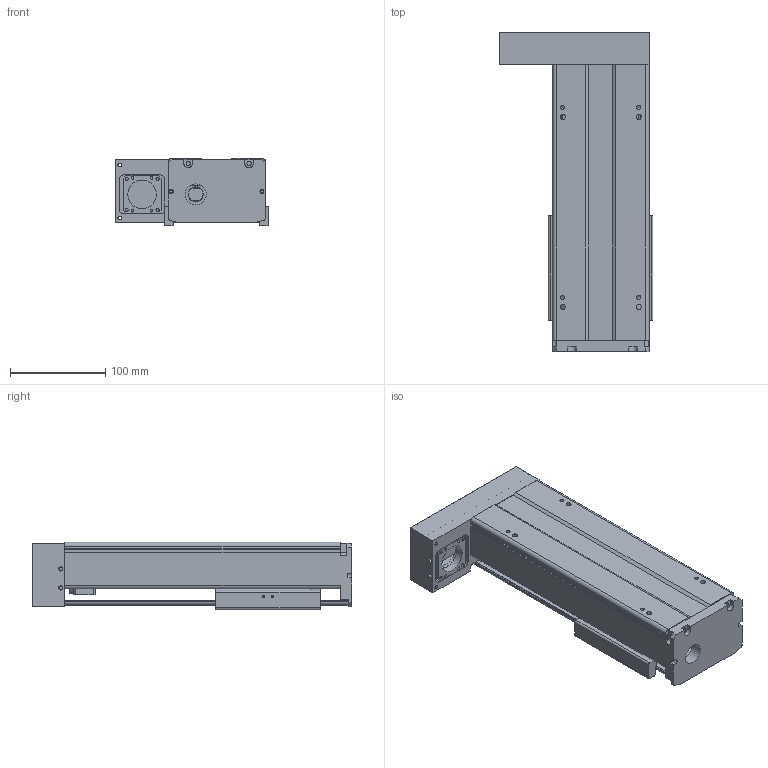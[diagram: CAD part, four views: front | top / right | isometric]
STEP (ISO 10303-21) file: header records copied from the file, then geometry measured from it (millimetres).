
FILE_DESCRIPTION(/* description */ (''),/* implementation_level */ '2;1');
FILE_NAME(/* name */ 'TKA100-FL-100_asm1.stp',/* time_stamp */ '2016-05-17T14:41:33+08:00',/* author */ (''),/* organization */ (''),/* preprocessor_version */ 'ST-DEVELOPER v15',/* originating_system */ 'SIEMENS PLM Software NX 8.5',/* authorisation */ '');
FILE_SCHEMA (('AUTOMOTIVE_DESIGN { 1 0 10303 214 3 1 1 1 }'));
Length unit declared in the file: millimetre
Products named in the file (3): 200-2; 200-1; TKA100-FL-100_asm1
Assembly tree (2 placements, depth 2):
  TKA100-FL-100_asm1
    200-1
    200-2
Bounding box: 162 x 336 x 71 mm (x, y, z)
Volume: 970325.8 mm3; surface area: 333533 mm2
Topology: 2 solids, 16 shells, 768 faces, 1984 edges, 1289 vertices
Faces by surface type: plane 314, cylinder 285, cone 115, torus 28, bspline 26
Full cylindrical faces by diameter (mm): 2.5 x6, 2.6 x8, 3.3 x11, 3.4 x4, 3.8 x8, 4.2 x13, 4.3 x4, 4.5 x10, 5 x2, 5.5 x12, 6.6 x4, 8 x4, 9 x6, 10 x3, 11 x4, 12 x6, 15.3 x1, 16 x1, 22 x1, 24 x1, 28 x2, 30 x1, 33 x1
Entity records: 28365 total; most frequent: CARTESIAN_POINT 10467, DIRECTION 3663, ORIENTED_EDGE 3508, EDGE_CURVE 1754, AXIS2_PLACEMENT_3D 1433, VERTEX_POINT 1230, EDGE_LOOP 1039, LINE 797
